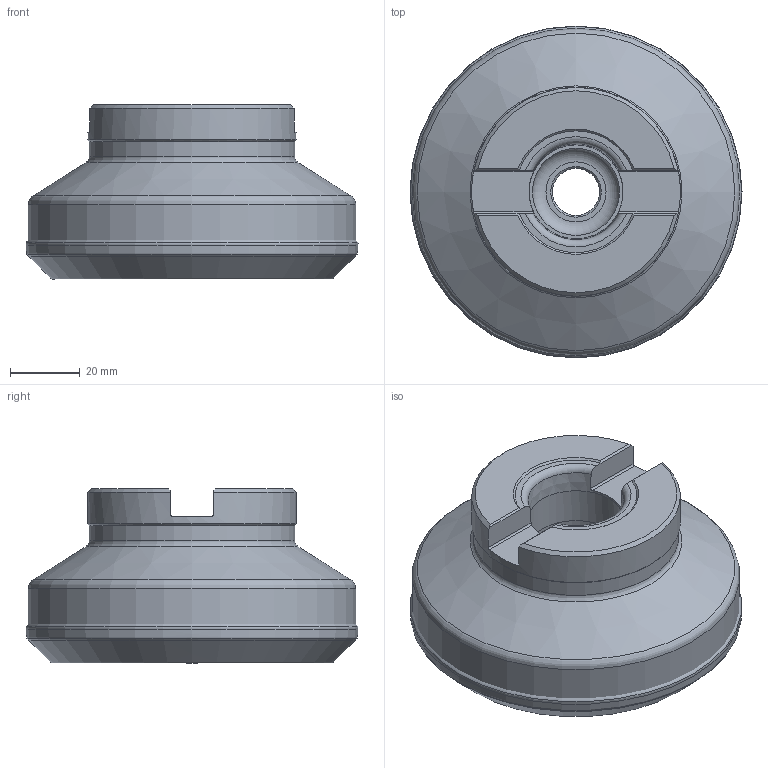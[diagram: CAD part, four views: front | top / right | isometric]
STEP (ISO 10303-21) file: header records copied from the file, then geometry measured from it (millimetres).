
FILE_DESCRIPTION(/* description */ (''),/* implementation_level */ '2;1');
FILE_NAME(/* name */ '637721706130597579.stp',/* time_stamp */ '2021-11-10T19:50:24+08:00',/* author */ (''),/* organization */ (''),/* preprocessor_version */ 'ST-DEVELOPER v16.7',/* originating_system */ 'SIEMENS PLM Software NX 12.0',/* authorisation */ '');
FILE_SCHEMA (('AUTOMOTIVE_DESIGN { 1 0 10303 214 3 1 1 1 }'));
Length unit declared in the file: millimetre
Products named in the file (2): 637721706093557622_SNEG1506ANR-GM; 637721706070055162_FMA11-080-A27-SN15-06_S
Assembly tree (6 placements, depth 2):
  637721706070055162_FMA11-080-A27-SN15-06_S
    637721706093557622_SNEG1506ANR-GM  x6
Bounding box: 95.35 x 95.34 x 50.01 mm (x, y, z)
Volume: 230815.2 mm3; surface area: 39757.8 mm2
Topology: 2 solids, 2 shells, 71 faces, 164 edges, 100 vertices
Faces by surface type: plane 21, cone 14, cylinder 12, torus 12, revolution 12
Full cylindrical faces by diameter (mm): 13.5 x1, 20 x1, 27 x1, 29 x1, 59 x1, 60 x2, 94 x1
Entity records: 2917 total; most frequent: CARTESIAN_POINT 1391, DIRECTION 288, ORIENTED_EDGE 226, AXIS2_PLACEMENT_3D 126, EDGE_LOOP 116, EDGE_CURVE 113, FACE_BOUND 92, VERTEX_POINT 89
